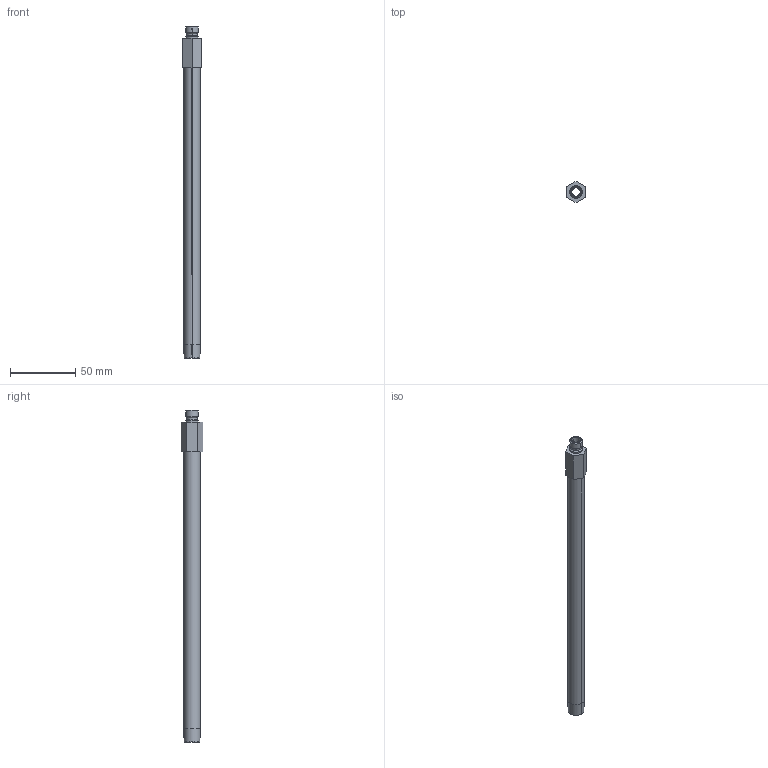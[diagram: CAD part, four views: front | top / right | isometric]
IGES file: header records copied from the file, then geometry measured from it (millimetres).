
Start section: SolidWorks IGES file using analytic representation for surfaces
Global section: file name: C:\Users\365admin\AppData\Local\Temp\InFlowConvert3DWorking\252L10-BSP.igs; native system: SolidWorks 2020; preprocessor: SolidWorks 2020; author: 365admin; date: 230309.031729; units: inch
Bounding box: 14.22 x 16.42 x 254 mm (x, y, z)
Surface area: 17593.6 mm2 (no closed solid volume)
Topology: 0 solids, 0 shells, 31 faces, 372 edges, 372 vertices
Faces by surface type: revolution 20, bspline 11
